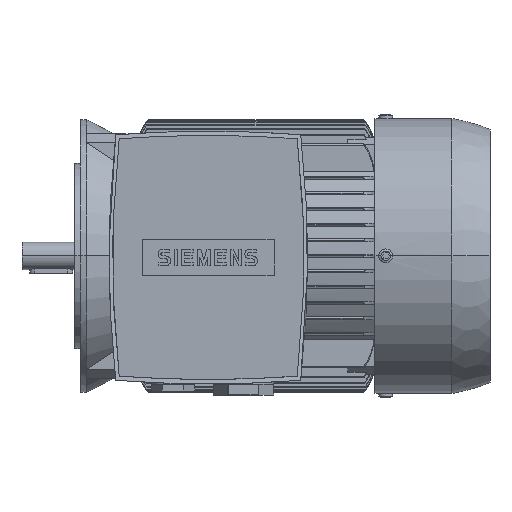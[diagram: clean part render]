
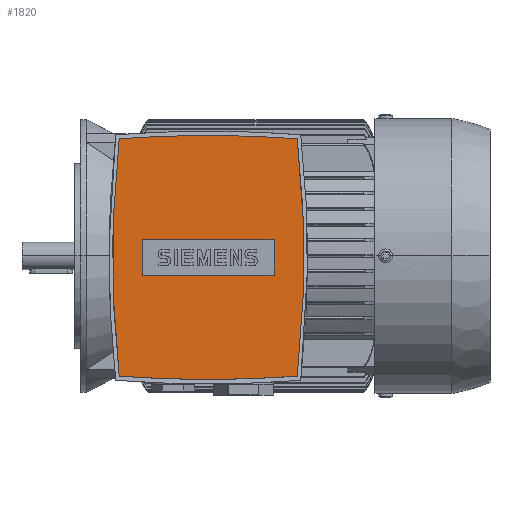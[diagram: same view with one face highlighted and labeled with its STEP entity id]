
A CAD part, top view. The second image highlights one B-rep face of the part: STEP entity #1820.
In plain terms, the highlighted planar face has unit normal (0, 0, 1).
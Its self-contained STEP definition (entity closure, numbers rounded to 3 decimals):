
#1820=ADVANCED_FACE('',(#3815,#3816),#3817,.T.);
#3815=FACE_BOUND('',#5962,.T.);
#3816=FACE_OUTER_BOUND('',#5963,.T.);
#3817=PLANE('',#5964);
#5962=EDGE_LOOP('',(#11556,#11557,#11558,#11559));
#5963=EDGE_LOOP('',(#11560,#11561,#11562,#11563,#11564,#11565));
#5964=AXIS2_PLACEMENT_3D('',#11566,#11567,#11568);
#11556=ORIENTED_EDGE('',*,*,#14867,.T.);
#11557=ORIENTED_EDGE('',*,*,#14871,.T.);
#11558=ORIENTED_EDGE('',*,*,#14874,.T.);
#11559=ORIENTED_EDGE('',*,*,#14876,.T.);
#11560=ORIENTED_EDGE('',*,*,#14952,.T.);
#11561=ORIENTED_EDGE('',*,*,#14954,.T.);
#11562=ORIENTED_EDGE('',*,*,#12963,.T.);
#11563=ORIENTED_EDGE('',*,*,#14946,.T.);
#11564=ORIENTED_EDGE('',*,*,#12974,.T.);
#11565=ORIENTED_EDGE('',*,*,#14943,.T.);
#11566=CARTESIAN_POINT('',(42.5,-1.0,149.0));
#11567=DIRECTION('',(0.0,0.0,1.0));
#11568=DIRECTION('',(0.0,-1.0,0.0));
#12963=EDGE_CURVE('',#15568,#15572,#15574,.T.);
#12974=EDGE_CURVE('',#15594,#15591,#15595,.T.);
#14867=EDGE_CURVE('',#18425,#18423,#18426,.T.);
#14871=EDGE_CURVE('',#18423,#18429,#18431,.T.);
#14874=EDGE_CURVE('',#18429,#18433,#18435,.T.);
#14876=EDGE_CURVE('',#18433,#18425,#18437,.T.);
#14943=EDGE_CURVE('',#15591,#18532,#18534,.T.);
#14946=EDGE_CURVE('',#15572,#15594,#18537,.T.);
#14952=EDGE_CURVE('',#18532,#18542,#18544,.T.);
#14954=EDGE_CURVE('',#18542,#15568,#18546,.T.);
#15568=VERTEX_POINT('',#19497);
#15572=VERTEX_POINT('',#19502);
#15574=CIRCLE('',#19505,630.36);
#15591=VERTEX_POINT('',#19547);
#15594=VERTEX_POINT('',#19551);
#15595=CIRCLE('',#19552,630.36);
#18423=VERTEX_POINT('',#28482);
#18425=VERTEX_POINT('',#28485);
#18426=LINE('',#28486,#28487);
#18429=VERTEX_POINT('',#28491);
#18431=LINE('',#28494,#28495);
#18433=VERTEX_POINT('',#28497);
#18435=LINE('',#28500,#28501);
#18437=LINE('',#28503,#28504);
#18532=VERTEX_POINT('',#28642);
#18534=CIRCLE('',#28645,630.36);
#18537=CIRCLE('',#28648,554.4);
#18542=VERTEX_POINT('',#28654);
#18544=CIRCLE('',#28657,554.4);
#18546=CIRCLE('',#28659,630.36);
#19497=CARTESIAN_POINT('',(42.5,-63.5,149.0));
#19502=CARTESIAN_POINT('',(88.151,-61.845,149.0));
#19505=AXIS2_PLACEMENT_3D('',#29716,#29717,#29718);
#19547=CARTESIAN_POINT('',(42.5,61.5,149.0));
#19551=CARTESIAN_POINT('',(88.151,59.845,149.0));
#19552=AXIS2_PLACEMENT_3D('',#29732,#29733,#29734);
#28482=CARTESIAN_POINT('',(8.75,-10.05,149.0));
#28485=CARTESIAN_POINT('',(76.25,-10.05,149.0));
#28486=CARTESIAN_POINT('',(42.5,-10.05,149.0));
#28487=VECTOR('',#31361,1.0);
#28491=CARTESIAN_POINT('',(8.75,8.05,149.0));
#28494=CARTESIAN_POINT('',(8.75,-1.0,149.0));
#28495=VECTOR('',#31364,1.0);
#28497=CARTESIAN_POINT('',(76.25,8.05,149.0));
#28500=CARTESIAN_POINT('',(42.5,8.05,149.0));
#28501=VECTOR('',#31366,1.0);
#28503=CARTESIAN_POINT('',(76.25,-1.0,149.0));
#28504=VECTOR('',#31367,1.0);
#28642=CARTESIAN_POINT('',(-3.151,59.845,149.0));
#28645=AXIS2_PLACEMENT_3D('',#31466,#31467,#31468);
#28648=AXIS2_PLACEMENT_3D('',#31469,#31470,#31471);
#28654=CARTESIAN_POINT('',(-3.151,-61.845,149.0));
#28657=AXIS2_PLACEMENT_3D('',#31474,#31475,#31476);
#28659=AXIS2_PLACEMENT_3D('',#31477,#31478,#31479);
#29716=CARTESIAN_POINT('',(42.5,566.86,149.0));
#29717=DIRECTION('',(0.0,-0.0,1.0));
#29718=DIRECTION('',(0.0,1.0,0.0));
#29732=CARTESIAN_POINT('',(42.5,-568.86,149.0));
#29733=DIRECTION('',(0.0,-0.0,1.0));
#29734=DIRECTION('',(0.0,1.0,0.0));
#31361=DIRECTION('',(-1.0,0.0,0.0));
#31364=DIRECTION('',(0.0,1.0,0.0));
#31366=DIRECTION('',(1.0,0.0,-0.0));
#31367=DIRECTION('',(0.0,-1.0,0.0));
#31466=CARTESIAN_POINT('',(42.5,-568.86,149.0));
#31467=DIRECTION('',(0.0,-0.0,1.0));
#31468=DIRECTION('',(0.0,1.0,0.0));
#31469=CARTESIAN_POINT('',(-462.9,-1.0,149.0));
#31470=DIRECTION('',(0.0,-0.0,1.0));
#31471=DIRECTION('',(0.0,1.0,0.0));
#31474=CARTESIAN_POINT('',(547.9,-1.0,149.0));
#31475=DIRECTION('',(0.0,-0.0,1.0));
#31476=DIRECTION('',(0.0,1.0,0.0));
#31477=CARTESIAN_POINT('',(42.5,566.86,149.0));
#31478=DIRECTION('',(0.0,-0.0,1.0));
#31479=DIRECTION('',(0.0,1.0,0.0));
